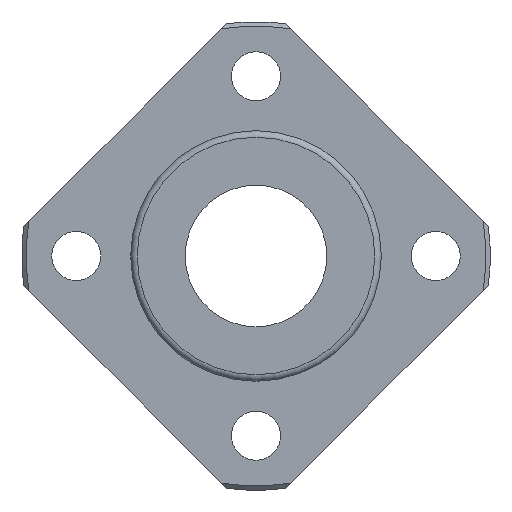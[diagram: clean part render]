
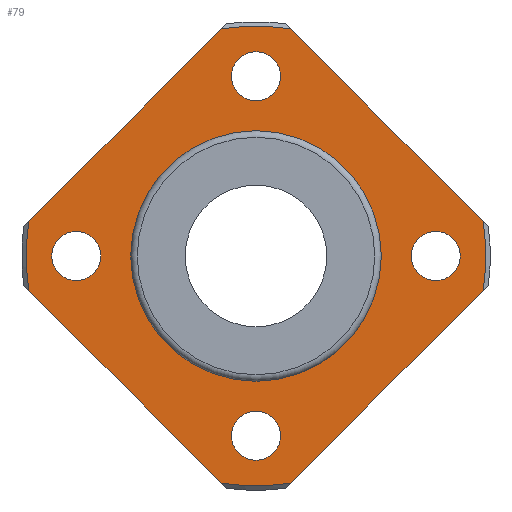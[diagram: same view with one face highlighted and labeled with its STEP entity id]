
A CAD part, left-side view. The second image highlights one B-rep face of the part: STEP entity #79.
In plain terms, the highlighted planar face has unit normal (-1, 0, 0).
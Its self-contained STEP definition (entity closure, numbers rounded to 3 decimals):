
#79=ADVANCED_FACE('',(#125,#126,#127,#128,#129,#130),#131,.T.);
#125=FACE_BOUND('',#240,.T.);
#126=FACE_BOUND('',#241,.T.);
#127=FACE_BOUND('',#242,.T.);
#128=FACE_BOUND('',#243,.T.);
#129=FACE_BOUND('',#244,.T.);
#130=FACE_OUTER_BOUND('',#245,.T.);
#131=PLANE('',#246);
#240=EDGE_LOOP('',(#387));
#241=EDGE_LOOP('',(#388));
#242=EDGE_LOOP('',(#389));
#243=EDGE_LOOP('',(#390));
#244=EDGE_LOOP('',(#391));
#245=EDGE_LOOP('',(#392,#393,#394,#395,#396,#397,#398,#399));
#246=AXIS2_PLACEMENT_3D('',#400,#401,#402);
#387=ORIENTED_EDGE('',*,*,#648,.F.);
#388=ORIENTED_EDGE('',*,*,#649,.T.);
#389=ORIENTED_EDGE('',*,*,#650,.T.);
#390=ORIENTED_EDGE('',*,*,#651,.T.);
#391=ORIENTED_EDGE('',*,*,#652,.T.);
#392=ORIENTED_EDGE('',*,*,#632,.T.);
#393=ORIENTED_EDGE('',*,*,#634,.T.);
#394=ORIENTED_EDGE('',*,*,#653,.T.);
#395=ORIENTED_EDGE('',*,*,#654,.T.);
#396=ORIENTED_EDGE('',*,*,#655,.T.);
#397=ORIENTED_EDGE('',*,*,#622,.T.);
#398=ORIENTED_EDGE('',*,*,#656,.T.);
#399=ORIENTED_EDGE('',*,*,#641,.T.);
#400=CARTESIAN_POINT('',(-6.0,16.125,0.0));
#401=DIRECTION('',(-1.0,0.0,0.));
#402=DIRECTION('',(0.,0.0,1.0));
#622=EDGE_CURVE('',#698,#699,#700,.T.);
#632=EDGE_CURVE('',#719,#717,#720,.T.);
#634=EDGE_CURVE('',#717,#722,#723,.T.);
#641=EDGE_CURVE('',#735,#719,#736,.T.);
#648=EDGE_CURVE('',#748,#748,#749,.T.);
#649=EDGE_CURVE('',#750,#750,#751,.T.);
#650=EDGE_CURVE('',#752,#752,#753,.T.);
#651=EDGE_CURVE('',#754,#754,#755,.T.);
#652=EDGE_CURVE('',#756,#756,#757,.T.);
#653=EDGE_CURVE('',#722,#758,#759,.T.);
#654=EDGE_CURVE('',#758,#760,#761,.T.);
#655=EDGE_CURVE('',#760,#698,#762,.T.);
#656=EDGE_CURVE('',#699,#735,#763,.T.);
#698=VERTEX_POINT('',#834);
#699=VERTEX_POINT('',#835);
#700=LINE('',#836,#837);
#717=VERTEX_POINT('',#869);
#719=VERTEX_POINT('',#874);
#720=CIRCLE('',#875,21.1);
#722=VERTEX_POINT('',#880);
#723=LINE('',#881,#882);
#735=VERTEX_POINT('',#906);
#736=LINE('',#907,#908);
#748=VERTEX_POINT('',#932);
#749=CIRCLE('',#933,11.15);
#750=VERTEX_POINT('',#934);
#751=CIRCLE('',#935,2.25);
#752=VERTEX_POINT('',#936);
#753=CIRCLE('',#937,2.25);
#754=VERTEX_POINT('',#938);
#755=CIRCLE('',#939,2.25);
#756=VERTEX_POINT('',#940);
#757=CIRCLE('',#941,2.25);
#758=VERTEX_POINT('',#942);
#759=CIRCLE('',#943,21.1);
#760=VERTEX_POINT('',#944);
#761=LINE('',#945,#946);
#762=CIRCLE('',#947,21.1);
#763=CIRCLE('',#948,21.1);
#834=CARTESIAN_POINT('',(-6.0,-20.859,3.183));
#835=CARTESIAN_POINT('',(-6.0,-3.183,20.859));
#836=CARTESIAN_POINT('',(-6.0,-3.958,20.083));
#837=VECTOR('',#1034,1.0);
#869=CARTESIAN_POINT('',(-6.0,20.859,-3.183));
#874=CARTESIAN_POINT('',(-6.0,20.859,3.183));
#875=AXIS2_PLACEMENT_3D('',#1041,#1042,#1043);
#880=CARTESIAN_POINT('',(-6.0,3.183,-20.859));
#881=CARTESIAN_POINT('',(-6.0,20.083,-3.958));
#882=VECTOR('',#1044,1.0);
#906=CARTESIAN_POINT('',(-6.0,3.183,20.859));
#907=CARTESIAN_POINT('',(-6.0,20.083,3.958));
#908=VECTOR('',#1048,1.0);
#932=CARTESIAN_POINT('',(-6.0,11.15,0.0));
#933=AXIS2_PLACEMENT_3D('',#1052,#1053,#1054);
#934=CARTESIAN_POINT('',(-6.0,16.5,2.25));
#935=AXIS2_PLACEMENT_3D('',#1055,#1056,#1057);
#936=CARTESIAN_POINT('',(-6.0,0.0,18.75));
#937=AXIS2_PLACEMENT_3D('',#1058,#1059,#1060);
#938=CARTESIAN_POINT('',(-6.0,-16.5,2.25));
#939=AXIS2_PLACEMENT_3D('',#1061,#1062,#1063);
#940=CARTESIAN_POINT('',(-6.0,0.0,-14.25));
#941=AXIS2_PLACEMENT_3D('',#1064,#1065,#1066);
#942=CARTESIAN_POINT('',(-6.0,-3.183,-20.859));
#943=AXIS2_PLACEMENT_3D('',#1067,#1068,#1069);
#944=CARTESIAN_POINT('',(-6.0,-20.859,-3.183));
#945=CARTESIAN_POINT('',(-6.0,-3.958,-20.083));
#946=VECTOR('',#1070,1.0);
#947=AXIS2_PLACEMENT_3D('',#1071,#1072,#1073);
#948=AXIS2_PLACEMENT_3D('',#1074,#1075,#1076);
#1034=DIRECTION('',(0.,0.707,0.707));
#1041=CARTESIAN_POINT('',(-6.0,0.0,0.0));
#1042=DIRECTION('',(-1.0,0.0,0.));
#1043=DIRECTION('',(0.0,1.0,0.0));
#1044=DIRECTION('',(0.,-0.707,-0.707));
#1048=DIRECTION('',(0.,0.707,-0.707));
#1052=CARTESIAN_POINT('',(-6.0,0.0,0.0));
#1053=DIRECTION('',(-1.0,0.0,0.));
#1054=DIRECTION('',(0.0,1.0,0.0));
#1055=CARTESIAN_POINT('',(-6.0,16.5,0.));
#1056=DIRECTION('',(1.0,0.0,0.));
#1057=DIRECTION('',(0.,0.0,-1.0));
#1058=CARTESIAN_POINT('',(-6.0,0.0,16.5));
#1059=DIRECTION('',(1.0,0.0,0.));
#1060=DIRECTION('',(0.,0.0,-1.0));
#1061=CARTESIAN_POINT('',(-6.0,-16.5,0.));
#1062=DIRECTION('',(1.0,0.0,0.));
#1063=DIRECTION('',(0.,0.0,-1.0));
#1064=CARTESIAN_POINT('',(-6.0,0.0,-16.5));
#1065=DIRECTION('',(1.0,0.0,0.));
#1066=DIRECTION('',(0.,0.0,-1.0));
#1067=CARTESIAN_POINT('',(-6.0,0.0,0.0));
#1068=DIRECTION('',(-1.0,0.0,0.));
#1069=DIRECTION('',(0.0,1.0,0.0));
#1070=DIRECTION('',(0.,-0.707,0.707));
#1071=CARTESIAN_POINT('',(-6.0,0.0,0.0));
#1072=DIRECTION('',(-1.0,0.0,0.));
#1073=DIRECTION('',(0.0,1.0,0.0));
#1074=CARTESIAN_POINT('',(-6.0,0.0,0.0));
#1075=DIRECTION('',(-1.0,0.0,0.));
#1076=DIRECTION('',(0.0,1.0,0.0));
